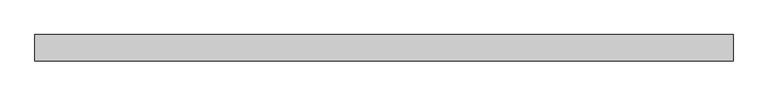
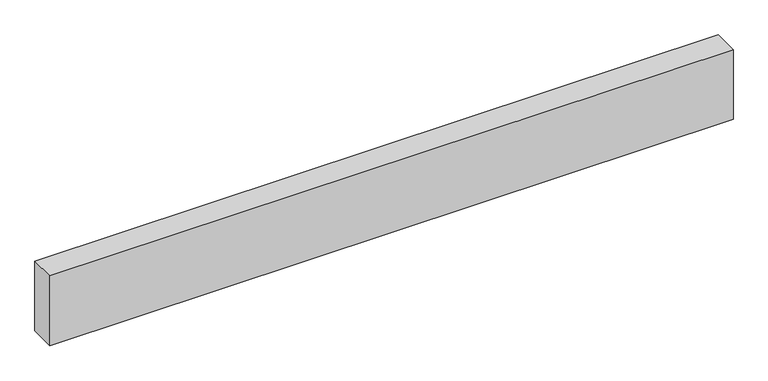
"""IFC4 building model written with IfcOpenShell, lengths in millimetres: proxy geometry."""

from ifc_helpers import new_model, si_unit, frame, origin, place, context, project, spatial, polyline, outline, extrude, source, transform, mapped, element, save


def structural_framing_fa4ca75f(model_context):
    return source(origin(), model_context, "Body", "SweptSolid", [
        extrude(outline(polyline([(-1852.8, -70.0), (-1852.8, 70.0), (1852.8, 70.0), (1852.8, -70.0), (-1852.8, -70.0)])), frame((0.0, 0.0, -400.0), z_axis=(0.0, 0.0, 1.0), x_axis=(1.0, 0.0, 0.0)), (0.0, 0.0, 1.0), 400.0),
    ])


if __name__ == "__main__":
    model = new_model("IFC4")
    model_context = context("Model", 3, world=origin())
    ifc_project = project(units=[si_unit("LENGTHUNIT", "METRE", prefix="MILLI")], contexts=[model_context])
    site = spatial("IfcSite", under=ifc_project)
    building = spatial("IfcBuilding", under=site)
    placement = place(None, origin())
    structural_framing_shape = structural_framing_fa4ca75f(model_context)
    element("IfcBuildingElementProxy", 1, Name="Structural Framing", at=placement, inside=building, context=model_context, shape_type="MappedRepresentation", body=[
        mapped(structural_framing_shape, transform((0.0, 0.0, 0.0), x_axis=(1.0, 0.0, 0.0), y_axis=(0.0, 1.0, 0.0), z_axis=(0.0, 0.0, 1.0))),
    ])
    save(model, "model.ifc")
